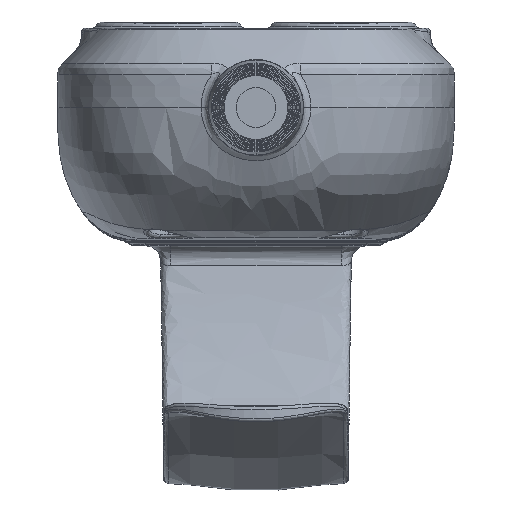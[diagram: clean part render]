
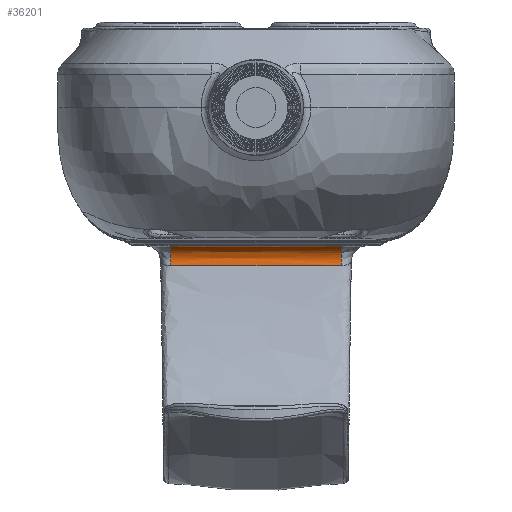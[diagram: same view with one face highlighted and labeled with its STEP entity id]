
A CAD part, front view. The second image highlights one B-rep face of the part: STEP entity #36201.
In plain terms, the highlighted free-form (B-spline) face has degree [3, 3] with [4, 13] control points.
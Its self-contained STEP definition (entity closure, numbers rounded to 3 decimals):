
#3366 = AXIS2_PLACEMENT_3D ( 'NONE', #7129, #7148, #7149 ) ;
#3367 = AXIS2_PLACEMENT_3D ( 'NONE', #7043, #7044, #7045 ) ;
#5400 = CARTESIAN_POINT ( 'NONE',  ( -10.75, 53.608, -12.387 ) ) ;
#5402 = CARTESIAN_POINT ( 'NONE',  ( -10.75, 53.303, -12.385 ) ) ;
#5404 = CARTESIAN_POINT ( 'NONE',  ( -10.75, 53.913, -12.462 ) ) ;
#5406 = CARTESIAN_POINT ( 'NONE',  ( -10.75, 54.187, -12.599 ) ) ;
#5408 = CARTESIAN_POINT ( 'NONE',  ( -10.75, 54.46, -12.737 ) ) ;
#5409 = CARTESIAN_POINT ( 'NONE',  ( -10.75, 54.7, -12.939 ) ) ;
#5411 = CARTESIAN_POINT ( 'NONE',  ( -10.75, 54.884, -13.183 ) ) ;
#5413 = CARTESIAN_POINT ( 'NONE',  ( -10.75, 55.068, -13.428 ) ) ;
#5414 = CARTESIAN_POINT ( 'NONE',  ( -10.75, 55.194, -13.715 ) ) ;
#5416 = CARTESIAN_POINT ( 'NONE',  ( -10.75, 55.251, -14.016 ) ) ;
#5418 = CARTESIAN_POINT ( 'NONE',  ( -10.75, 55.307, -14.316 ) ) ;
#5419 = CARTESIAN_POINT ( 'NONE',  ( -10.75, 55.293, -14.63 ) ) ;
#5421 = CARTESIAN_POINT ( 'NONE',  ( -10.75, 55.211, -14.925 ) ) ;
#5423 = CARTESIAN_POINT ( 'NONE',  ( -3.584, 53.303, -12.385 ) ) ;
#5425 = CARTESIAN_POINT ( 'NONE',  ( -3.584, 53.608, -12.387 ) ) ;
#5427 = CARTESIAN_POINT ( 'NONE',  ( -3.584, 53.913, -12.462 ) ) ;
#5428 = CARTESIAN_POINT ( 'NONE',  ( -3.584, 54.187, -12.599 ) ) ;
#5430 = CARTESIAN_POINT ( 'NONE',  ( -3.584, 54.46, -12.737 ) ) ;
#5431 = CARTESIAN_POINT ( 'NONE',  ( -3.584, 54.7, -12.939 ) ) ;
#5433 = CARTESIAN_POINT ( 'NONE',  ( -3.584, 54.884, -13.183 ) ) ;
#5435 = CARTESIAN_POINT ( 'NONE',  ( -3.584, 55.068, -13.428 ) ) ;
#5436 = CARTESIAN_POINT ( 'NONE',  ( -3.584, 55.194, -13.715 ) ) ;
#5438 = CARTESIAN_POINT ( 'NONE',  ( -3.584, 55.251, -14.016 ) ) ;
#5440 = CARTESIAN_POINT ( 'NONE',  ( -3.584, 55.307, -14.316 ) ) ;
#5441 = CARTESIAN_POINT ( 'NONE',  ( -3.584, 55.293, -14.63 ) ) ;
#5443 = CARTESIAN_POINT ( 'NONE',  ( -3.584, 55.211, -14.925 ) ) ;
#5445 = CARTESIAN_POINT ( 'NONE',  ( 3.583, 53.303, -12.385 ) ) ;
#5446 = CARTESIAN_POINT ( 'NONE',  ( 3.583, 53.608, -12.387 ) ) ;
#5448 = CARTESIAN_POINT ( 'NONE',  ( 3.583, 53.913, -12.462 ) ) ;
#5450 = CARTESIAN_POINT ( 'NONE',  ( 3.583, 54.187, -12.599 ) ) ;
#5451 = CARTESIAN_POINT ( 'NONE',  ( 3.583, 54.46, -12.737 ) ) ;
#5453 = CARTESIAN_POINT ( 'NONE',  ( 3.583, 54.7, -12.939 ) ) ;
#5455 = CARTESIAN_POINT ( 'NONE',  ( 3.583, 54.884, -13.183 ) ) ;
#5456 = CARTESIAN_POINT ( 'NONE',  ( 3.583, 55.068, -13.428 ) ) ;
#5458 = CARTESIAN_POINT ( 'NONE',  ( 3.583, 55.194, -13.715 ) ) ;
#5460 = CARTESIAN_POINT ( 'NONE',  ( 3.583, 55.251, -14.016 ) ) ;
#5462 = CARTESIAN_POINT ( 'NONE',  ( 3.583, 55.307, -14.316 ) ) ;
#5463 = CARTESIAN_POINT ( 'NONE',  ( 3.583, 55.293, -14.63 ) ) ;
#5464 = CARTESIAN_POINT ( 'NONE',  ( 3.583, 55.211, -14.925 ) ) ;
#5466 = CARTESIAN_POINT ( 'NONE',  ( 10.75, 53.303, -12.385 ) ) ;
#5467 = CARTESIAN_POINT ( 'NONE',  ( 10.75, 53.608, -12.387 ) ) ;
#5469 = CARTESIAN_POINT ( 'NONE',  ( 10.75, 53.913, -12.462 ) ) ;
#5471 = CARTESIAN_POINT ( 'NONE',  ( 10.75, 54.187, -12.599 ) ) ;
#5472 = CARTESIAN_POINT ( 'NONE',  ( 10.75, 54.46, -12.737 ) ) ;
#5474 = CARTESIAN_POINT ( 'NONE',  ( 10.75, 54.7, -12.939 ) ) ;
#5476 = CARTESIAN_POINT ( 'NONE',  ( 10.75, 54.884, -13.183 ) ) ;
#5477 = CARTESIAN_POINT ( 'NONE',  ( 10.75, 55.068, -13.428 ) ) ;
#5479 = CARTESIAN_POINT ( 'NONE',  ( 10.75, 55.194, -13.715 ) ) ;
#5481 = CARTESIAN_POINT ( 'NONE',  ( 10.75, 55.251, -14.016 ) ) ;
#5482 = CARTESIAN_POINT ( 'NONE',  ( 10.75, 55.307, -14.316 ) ) ;
#5483 = CARTESIAN_POINT ( 'NONE',  ( 10.75, 55.293, -14.63 ) ) ;
#5485 = CARTESIAN_POINT ( 'NONE',  ( 10.75, 55.211, -14.925 ) ) ;
#6993 = CARTESIAN_POINT ( 'NONE',  ( 10.75, 55.211, -14.925 ) ) ;
#7000 = CARTESIAN_POINT ( 'NONE',  ( 8.881, 55.211, -14.925 ) ) ;
#7001 = CARTESIAN_POINT ( 'NONE',  ( 5.265, 55.211, -14.925 ) ) ;
#7002 = CARTESIAN_POINT ( 'NONE',  ( 0., 55.211, -14.925 ) ) ;
#7003 = CARTESIAN_POINT ( 'NONE',  ( -5.266, 55.211, -14.925 ) ) ;
#7004 = CARTESIAN_POINT ( 'NONE',  ( -8.881, 55.211, -14.925 ) ) ;
#7005 = CARTESIAN_POINT ( 'NONE',  ( -10.75, 55.211, -14.925 ) ) ;
#7043 = CARTESIAN_POINT ( 'NONE',  ( 10.75, 53.285, -14.385 ) ) ;
#7044 = DIRECTION ( 'NONE',  ( 1., 0., 0. ) ) ;
#7045 = DIRECTION ( 'NONE',  ( 0., 1., 0. ) ) ;
#7129 = CARTESIAN_POINT ( 'NONE',  ( -10.75, 53.285, -14.385 ) ) ;
#7148 = DIRECTION ( 'NONE',  ( 1., 0., 0. ) ) ;
#7149 = DIRECTION ( 'NONE',  ( 0., 1., 0. ) ) ;
#9235 = EDGE_LOOP ( 'NONE', ( #14271, #14272, #14273, #14274 ) ) ;
#9561 = CIRCLE ( 'NONE', #3367, 2. ) ;
#9562 = CIRCLE ( 'NONE', #3366, 2. ) ;
#12474 = CARTESIAN_POINT ( 'NONE',  ( -10.75, 53.303, -12.385 ) ) ;
#12491 = CARTESIAN_POINT ( 'NONE',  ( -8.865, 53.303, -12.385 ) ) ;
#12492 = CARTESIAN_POINT ( 'NONE',  ( -6.979, 53.303, -12.385 ) ) ;
#12493 = CARTESIAN_POINT ( 'NONE',  ( -5.094, 53.303, -12.385 ) ) ;
#12494 = CARTESIAN_POINT ( 'NONE',  ( -2.453, 53.303, -12.385 ) ) ;
#12495 = CARTESIAN_POINT ( 'NONE',  ( 0.187, 53.303, -12.385 ) ) ;
#12496 = CARTESIAN_POINT ( 'NONE',  ( 2.828, 53.303, -12.385 ) ) ;
#12497 = CARTESIAN_POINT ( 'NONE',  ( 5.468, 53.303, -12.385 ) ) ;
#12498 = CARTESIAN_POINT ( 'NONE',  ( 8.109, 53.303, -12.385 ) ) ;
#12499 = CARTESIAN_POINT ( 'NONE',  ( 10.75, 53.303, -12.385 ) ) ;
#14271 = ORIENTED_EDGE ( 'NONE', *, *, #20003, .T. ) ;
#14272 = ORIENTED_EDGE ( 'NONE', *, *, #19896, .F. ) ;
#14273 = ORIENTED_EDGE ( 'NONE', *, *, #20008, .F. ) ;
#14274 = ORIENTED_EDGE ( 'NONE', *, *, #19996, .F. ) ;
#16587 = FACE_OUTER_BOUND ( 'NONE', #9235, .T. ) ;
#19896 = EDGE_CURVE ( 'NONE', #25690, #48006, #20428, .T. ) ;
#19996 = EDGE_CURVE ( 'NONE', #25716, #26030, #46815, .T. ) ;
#20003 = EDGE_CURVE ( 'NONE', #25716, #48006, #9561, .T. ) ;
#20008 = EDGE_CURVE ( 'NONE', #26030, #25690, #9562, .T. ) ;
#20428 = B_SPLINE_CURVE_WITH_KNOTS ( 'NONE', 3,
 ( #12474, #12491, #12492, #12493, #12494, #12495, #12496, #12497, #12498, #12499 ),
 .UNSPECIFIED., .F., .F.,
 ( 4, 3, 3, 4 ),
 ( 0., 0.006, 0.014, 0.022 ),
 .UNSPECIFIED. ) ;
#25690 = VERTEX_POINT ( 'NONE', #31244 ) ;
#25716 = VERTEX_POINT ( 'NONE', #31270 ) ;
#26030 = VERTEX_POINT ( 'NONE', #31584 ) ;
#26973 = CARTESIAN_POINT ( 'NONE',  ( 10.75, 53.303, -12.385 ) ) ;
#29562 = B_SPLINE_SURFACE_WITH_KNOTS ( 'NONE', 3, 3, ( 
 ( #5402, #5400, #5404, #5406, #5408, #5409, #5411, #5413, #5414, #5416, #5418, #5419, #5421 ),
 ( #5423, #5425, #5427, #5428, #5430, #5431, #5433, #5435, #5436, #5438, #5440, #5441, #5443 ),
 ( #5445, #5446, #5448, #5450, #5451, #5453, #5455, #5456, #5458, #5460, #5462, #5463, #5464 ),
 ( #5466, #5467, #5469, #5471, #5472, #5474, #5476, #5477, #5479, #5481, #5482, #5483, #5485 ) ),
 .UNSPECIFIED., .F., .F., .F.,
 ( 4, 4 ),
 ( 4, 3, 3, 3, 4 ),
 ( 0., 0.022 ),
 ( 0., 0.25, 0.5, 0.75, 1. ),
 .UNSPECIFIED. ) ;
#31244 = CARTESIAN_POINT ( 'NONE',  ( -10.75, 53.303, -12.385 ) ) ;
#31270 = CARTESIAN_POINT ( 'NONE',  ( 10.75, 55.211, -14.925 ) ) ;
#31584 = CARTESIAN_POINT ( 'NONE',  ( -10.75, 55.211, -14.925 ) ) ;
#36201 = ADVANCED_FACE ( 'NONE', ( #16587 ), #29562, .F. ) ;
#46815 = B_SPLINE_CURVE_WITH_KNOTS ( 'NONE', 3,
 ( #6993, #7000, #7001, #7002, #7003, #7004, #7005 ),
 .UNSPECIFIED., .F., .F.,
 ( 4, 1, 1, 1, 4 ),
 ( 0., 0.005, 0.011, 0.016, 0.022 ),
 .UNSPECIFIED. ) ;
#48006 = VERTEX_POINT ( 'NONE', #26973 ) ;
